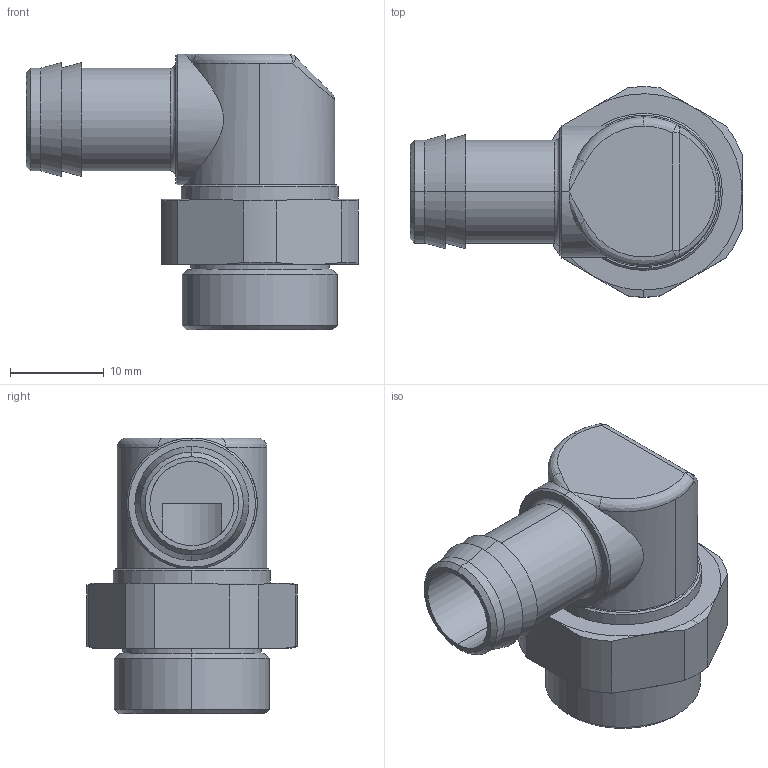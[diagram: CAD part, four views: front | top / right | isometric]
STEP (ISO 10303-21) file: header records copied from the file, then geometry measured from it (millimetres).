
FILE_DESCRIPTION(/* description */ (''),/* implementation_level */ '2;1');
FILE_NAME(/* name */ 'FIT_L10G38',/* time_stamp */ '2025-07-11T18:23:17+09:00',/* author */ (''),/* organization */ (''),/* preprocessor_version */ 'ST-DEVELOPER v19.2',/* originating_system */ 'Rhino 8.10',/* authorisation */ '');
FILE_SCHEMA (('CONFIG_CONTROL_DESIGN'));
Length unit declared in the file: millimetre
Products named in the file (1): Document
Bounding box: 35.5 x 22.48 x 29.5 mm (x, y, z)
Volume: 4855.1 mm3; surface area: 4696.6 mm2
Topology: 2 solids, 2 shells, 105 faces, 240 edges, 142 vertices
Faces by surface type: bspline 44, cylinder 32, plane 29
Entity records: 4424 total; most frequent: CARTESIAN_POINT 2339, ORIENTED_EDGE 468, DIRECTION 285, EDGE_CURVE 234, AXIS2_PLACEMENT_3D 173, VERTEX_POINT 137, EDGE_LOOP 111, TRIMMED_CURVE 109
